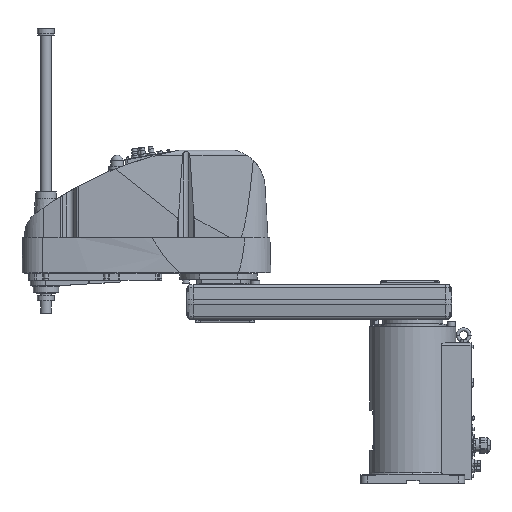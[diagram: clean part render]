
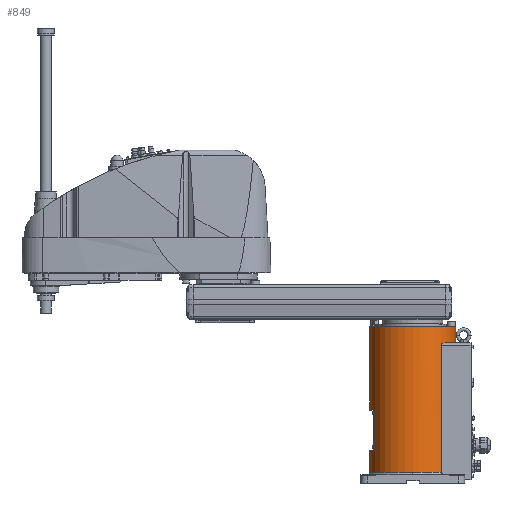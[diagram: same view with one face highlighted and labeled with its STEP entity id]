
A CAD part, top view. The second image highlights one B-rep face of the part: STEP entity #849.
In plain terms, the highlighted cylindrical face has radius 100 mm (diameter 200 mm), a partial arc.
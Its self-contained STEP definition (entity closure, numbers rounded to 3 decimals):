
#849 = ADVANCED_FACE( '', ( #3370 ), #3371, .T. );
#3370 = FACE_OUTER_BOUND( '', #7217, .T. );
#3371 = CYLINDRICAL_SURFACE( '', #7218, 100. );
#7217 = EDGE_LOOP( '', ( #14627, #14628, #14629, #14630, #14631, #14632, #14633, #14634, #14635, #14636, #14637, #14638, #14639, #14640, #14641, #14642 ) );
#7218 = AXIS2_PLACEMENT_3D( '', #14643, #14644, #14645 );
#14627 = ORIENTED_EDGE( '', *, *, #23845, .T. );
#14628 = ORIENTED_EDGE( '', *, *, #24566, .F. );
#14629 = ORIENTED_EDGE( '', *, *, #23859, .T. );
#14630 = ORIENTED_EDGE( '', *, *, #24701, .T. );
#14631 = ORIENTED_EDGE( '', *, *, #24699, .T. );
#14632 = ORIENTED_EDGE( '', *, *, #24689, .T. );
#14633 = ORIENTED_EDGE( '', *, *, #23855, .T. );
#14634 = ORIENTED_EDGE( '', *, *, #24201, .T. );
#14635 = ORIENTED_EDGE( '', *, *, #24198, .T. );
#14636 = ORIENTED_EDGE( '', *, *, #24843, .T. );
#14637 = ORIENTED_EDGE( '', *, *, #24807, .T. );
#14638 = ORIENTED_EDGE( '', *, *, #24849, .T. );
#14639 = ORIENTED_EDGE( '', *, *, #25308, .T. );
#14640 = ORIENTED_EDGE( '', *, *, #25309, .T. );
#14641 = ORIENTED_EDGE( '', *, *, #25310, .T. );
#14642 = ORIENTED_EDGE( '', *, *, #25311, .T. );
#14643 = CARTESIAN_POINT( '', ( 0., 194., 0. ) );
#14644 = DIRECTION( '', ( 0., -1., 0. ) );
#14645 = DIRECTION( '', ( 1., 0., 0. ) );
#23845 = EDGE_CURVE( '', #28335, #28336, #28337, .T. );
#23855 = EDGE_CURVE( '', #28356, #28354, #28357, .T. );
#23859 = EDGE_CURVE( '', #28364, #28362, #28365, .T. );
#24198 = EDGE_CURVE( '', #29016, #29021, #29023, .T. );
#24201 = EDGE_CURVE( '', #28354, #29016, #29027, .T. );
#24566 = EDGE_CURVE( '', #28364, #28336, #29624, .T. );
#24689 = EDGE_CURVE( '', #29824, #28356, #29825, .T. );
#24699 = EDGE_CURVE( '', #29843, #29824, #29844, .T. );
#24701 = EDGE_CURVE( '', #28362, #29843, #29846, .T. );
#24807 = EDGE_CURVE( '', #30013, #30011, #30014, .T. );
#24843 = EDGE_CURVE( '', #29021, #30013, #30078, .T. );
#24849 = EDGE_CURVE( '', #30011, #30085, #30087, .T. );
#25308 = EDGE_CURVE( '', #30085, #30748, #30749, .T. );
#25309 = EDGE_CURVE( '', #30748, #30750, #30751, .T. );
#25310 = EDGE_CURVE( '', #30750, #30752, #30753, .T. );
#25311 = EDGE_CURVE( '', #30752, #28335, #30754, .T. );
#28335 = VERTEX_POINT( '', #35679 );
#28336 = VERTEX_POINT( '', #35680 );
#28337 = LINE( '', #35681, #35682 );
#28354 = VERTEX_POINT( '', #35719 );
#28356 = VERTEX_POINT( '', #35721 );
#28357 = LINE( '', #35722, #35723 );
#28362 = VERTEX_POINT( '', #35729 );
#28364 = VERTEX_POINT( '', #35731 );
#28365 = LINE( '', #35732, #35733 );
#29016 = VERTEX_POINT( '', #36584 );
#29021 = VERTEX_POINT( '', #36589 );
#29023 = CIRCLE( '', #36618, 100. );
#29027 = CIRCLE( '', #36622, 100. );
#29624 = CIRCLE( '', #37551, 100. );
#29824 = VERTEX_POINT( '', #37864 );
#29825 = CIRCLE( '', #37865, 100. );
#29843 = VERTEX_POINT( '', #37892 );
#29844 = LINE( '', #37893, #37894 );
#29846 = CIRCLE( '', #37897, 100. );
#30011 = VERTEX_POINT( '', #38152 );
#30013 = VERTEX_POINT( '', #38155 );
#30014 = B_SPLINE_CURVE_WITH_KNOTS( '', 3, ( #38156, #38157, #38158, #38159, #38160, #38161, #38162, #38163, #38164, #38165, #38166, #38167, #38168, #38169, #38170, #38171, #38172, #38173 ), .UNSPECIFIED., .F., .F., ( 4, 2, 2, 2, 2, 2, 2, 2, 4 ), ( 14.722, 15.472, 16.222, 16.971, 17.721, 18.842, 19.962, 21.082, 22.202 ), .UNSPECIFIED. );
#30078 = LINE( '', #38271, #38272 );
#30085 = VERTEX_POINT( '', #38283 );
#30087 = CIRCLE( '', #38286, 100. );
#30748 = VERTEX_POINT( '', #39307 );
#30749 = LINE( '', #39308, #39309 );
#30750 = VERTEX_POINT( '', #39310 );
#30751 = CIRCLE( '', #39311, 100. );
#30752 = VERTEX_POINT( '', #39312 );
#30753 = LINE( '', #39313, #39314 );
#30754 = CIRCLE( '', #39315, 100. );
#35679 = CARTESIAN_POINT( '', ( 100., 324., 0. ) );
#35680 = CARTESIAN_POINT( '', ( 100., 363., 0. ) );
#35681 = CARTESIAN_POINT( '', ( 100., 194., 0. ) );
#35682 = VECTOR( '', #47258, 1. );
#35719 = CARTESIAN_POINT( '', ( -100., 25., 0. ) );
#35721 = CARTESIAN_POINT( '', ( -100., 76.7, 0. ) );
#35722 = CARTESIAN_POINT( '', ( -100., 194., 0. ) );
#35723 = VECTOR( '', #47277, 1. );
#35729 = CARTESIAN_POINT( '', ( -100., 169.7, 0. ) );
#35731 = CARTESIAN_POINT( '', ( -100., 363., 0. ) );
#35732 = CARTESIAN_POINT( '', ( -100., 194., 0. ) );
#35733 = VECTOR( '', #47285, 1. );
#36584 = CARTESIAN_POINT( '', ( 0., 25., 100. ) );
#36589 = CARTESIAN_POINT( '', ( 66.144, 25., 75. ) );
#36618 = AXIS2_PLACEMENT_3D( '', #47975, #47976, #47977 );
#36622 = AXIS2_PLACEMENT_3D( '', #47984, #47985, #47986 );
#37551 = AXIS2_PLACEMENT_3D( '', #48415, #48416, #48417 );
#37864 = CARTESIAN_POINT( '', ( -88., 76.7, 47.497 ) );
#37865 = AXIS2_PLACEMENT_3D( '', #48609, #48610, #48611 );
#37892 = CARTESIAN_POINT( '', ( -88., 169.7, 47.497 ) );
#37893 = CARTESIAN_POINT( '', ( -88., 123.2, 47.497 ) );
#37894 = VECTOR( '', #48621, 1. );
#37897 = AXIS2_PLACEMENT_3D( '', #48623, #48624, #48625 );
#38152 = CARTESIAN_POINT( '', ( 70.42, 324., 71. ) );
#38155 = CARTESIAN_POINT( '', ( 66.144, 320., 75. ) );
#38156 = CARTESIAN_POINT( '', ( 66.144, 320., 75. ) );
#38157 = CARTESIAN_POINT( '', ( 66.144, 320.25, 75. ) );
#38158 = CARTESIAN_POINT( '', ( 66.171, 320.503, 74.976 ) );
#38159 = CARTESIAN_POINT( '', ( 66.277, 320.995, 74.882 ) );
#38160 = CARTESIAN_POINT( '', ( 66.356, 321.234, 74.812 ) );
#38161 = CARTESIAN_POINT( '', ( 66.555, 321.685, 74.636 ) );
#38162 = CARTESIAN_POINT( '', ( 66.674, 321.897, 74.529 ) );
#38163 = CARTESIAN_POINT( '', ( 66.938, 322.284, 74.292 ) );
#38164 = CARTESIAN_POINT( '', ( 67.082, 322.458, 74.162 ) );
#38165 = CARTESIAN_POINT( '', ( 67.446, 322.842, 73.831 ) );
#38166 = CARTESIAN_POINT( '', ( 67.688, 323.046, 73.61 ) );
#38167 = CARTESIAN_POINT( '', ( 68.203, 323.396, 73.134 ) );
#38168 = CARTESIAN_POINT( '', ( 68.475, 323.543, 72.879 ) );
#38169 = CARTESIAN_POINT( '', ( 69.031, 323.776, 72.352 ) );
#38170 = CARTESIAN_POINT( '', ( 69.316, 323.861, 72.08 ) );
#38171 = CARTESIAN_POINT( '', ( 69.877, 323.974, 71.535 ) );
#38172 = CARTESIAN_POINT( '', ( 70.155, 324., 71.263 ) );
#38173 = CARTESIAN_POINT( '', ( 70.42, 324., 71. ) );
#38271 = CARTESIAN_POINT( '', ( 66.144, 172.5, 75. ) );
#38272 = VECTOR( '', #48796, 1. );
#38283 = CARTESIAN_POINT( '', ( 75.993, 324., 65. ) );
#38286 = AXIS2_PLACEMENT_3D( '', #48802, #48803, #48804 );
#39307 = CARTESIAN_POINT( '', ( 75.993, 326., 65. ) );
#39308 = CARTESIAN_POINT( '', ( 75.993, 325., 65. ) );
#39309 = VECTOR( '', #49629, 1. );
#39310 = CARTESIAN_POINT( '', ( 89.303, 326., 45. ) );
#39311 = AXIS2_PLACEMENT_3D( '', #49630, #49631, #49632 );
#39312 = CARTESIAN_POINT( '', ( 89.303, 324., 45. ) );
#39313 = CARTESIAN_POINT( '', ( 89.303, 325., 45. ) );
#39314 = VECTOR( '', #49633, 1. );
#39315 = AXIS2_PLACEMENT_3D( '', #49634, #49635, #49636 );
#47258 = DIRECTION( '', ( 0., 1., 0. ) );
#47277 = DIRECTION( '', ( 0., -1., 0. ) );
#47285 = DIRECTION( '', ( 0., -1., 0. ) );
#47975 = CARTESIAN_POINT( '', ( 0., 25., 0. ) );
#47976 = DIRECTION( '', ( 0., 1., 0. ) );
#47977 = DIRECTION( '', ( 1., 0., 0. ) );
#47984 = CARTESIAN_POINT( '', ( 0., 25., 0. ) );
#47985 = DIRECTION( '', ( 0., 1., 0. ) );
#47986 = DIRECTION( '', ( 1., 0., 0. ) );
#48415 = CARTESIAN_POINT( '', ( 0., 363., 0. ) );
#48416 = DIRECTION( '', ( 0., 1., 0. ) );
#48417 = DIRECTION( '', ( 1., 0., 0. ) );
#48609 = CARTESIAN_POINT( '', ( 0., 76.7, 0. ) );
#48610 = DIRECTION( '', ( 0., -1., 0. ) );
#48611 = DIRECTION( '', ( 1., 0., 0. ) );
#48621 = DIRECTION( '', ( 0., -1., 0. ) );
#48623 = CARTESIAN_POINT( '', ( 0., 169.7, 0. ) );
#48624 = DIRECTION( '', ( 0., 1., 0. ) );
#48625 = DIRECTION( '', ( 1., 0., 0. ) );
#48796 = DIRECTION( '', ( 0., 1., 0. ) );
#48802 = CARTESIAN_POINT( '', ( 0., 324., 0. ) );
#48803 = DIRECTION( '', ( 0., 1., 0. ) );
#48804 = DIRECTION( '', ( 1., 0., 0. ) );
#49629 = DIRECTION( '', ( 0., 1., 0. ) );
#49630 = CARTESIAN_POINT( '', ( 0., 326., 0. ) );
#49631 = DIRECTION( '', ( 0., 1., 0. ) );
#49632 = DIRECTION( '', ( 1., 0., 0. ) );
#49633 = DIRECTION( '', ( 0., -1., 0. ) );
#49634 = CARTESIAN_POINT( '', ( 0., 324., 0. ) );
#49635 = DIRECTION( '', ( 0., 1., 0. ) );
#49636 = DIRECTION( '', ( 1., 0., 0. ) );
